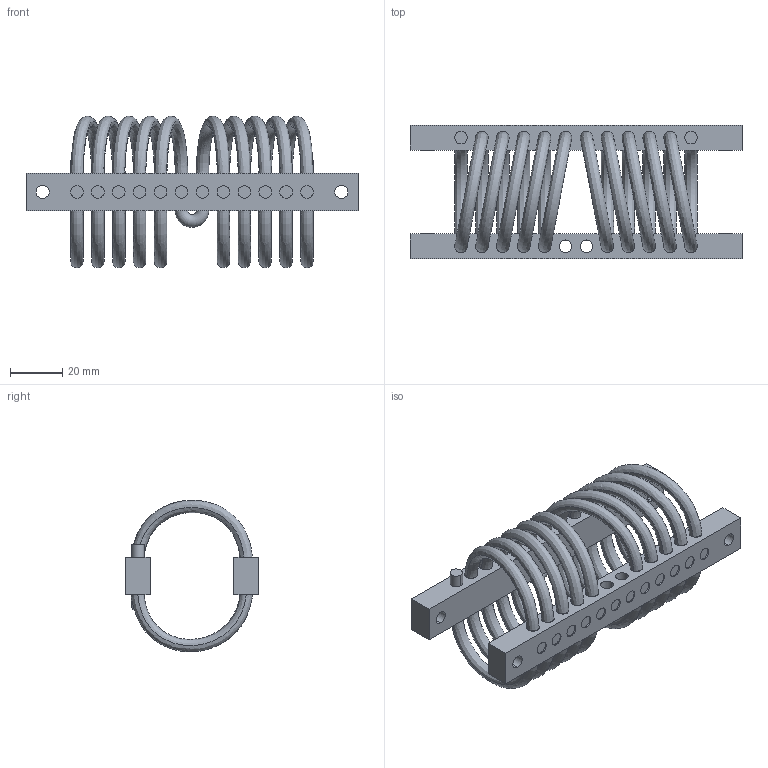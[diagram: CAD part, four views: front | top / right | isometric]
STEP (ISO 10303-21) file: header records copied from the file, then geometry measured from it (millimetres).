
FILE_DESCRIPTION (( 'STEP AP214' ), '1' );
FILE_NAME ('WR6-800-10DM.STEP', '2018-12-07T09:55:37', ( 'user' ), ( 'Microsoft' ), 'SwSTEP 2.0', 'SolidWorks 2016', '' );
FILE_SCHEMA (( 'AUTOMOTIVE_DESIGN' ));
Length unit declared in the file: millimetre
Products named in the file (1): WR6-800-10DM
Bounding box: 127 x 51 x 57.97 mm (x, y, z)
Volume: 56304.4 mm3; surface area: 42537.2 mm2
Topology: 25 solids, 25 shells, 316 faces, 702 edges, 460 vertices
Faces by surface type: cylinder 192, plane 82, bspline 40, torus 2
Entity records: 22810 total; most frequent: CARTESIAN_POINT 15539, ORIENTED_EDGE 1404, DIRECTION 1382, EDGE_CURVE 702, AXIS2_PLACEMENT_3D 583, VERTEX_POINT 460, EDGE_LOOP 396, FACE_OUTER_BOUND 316
